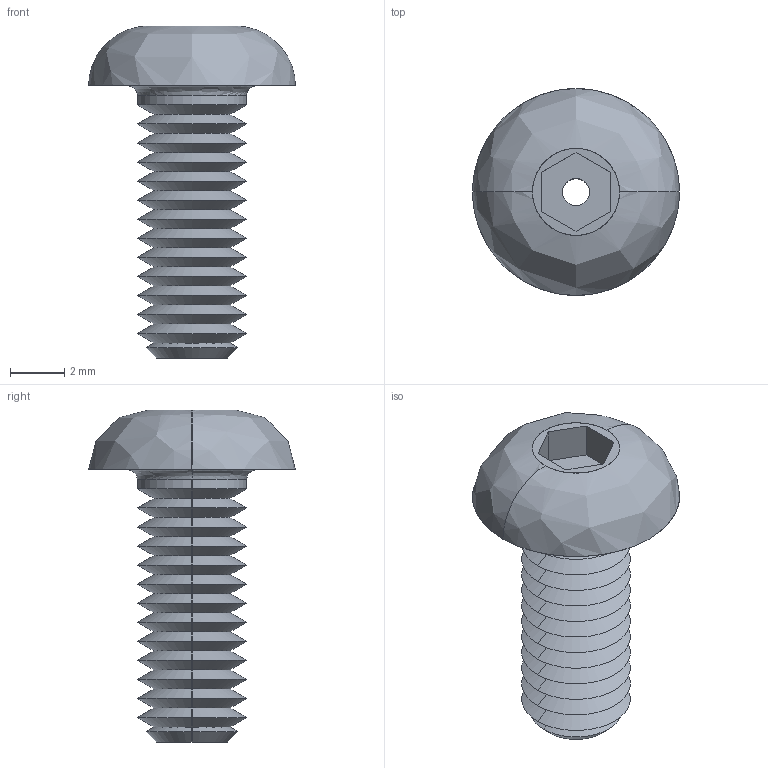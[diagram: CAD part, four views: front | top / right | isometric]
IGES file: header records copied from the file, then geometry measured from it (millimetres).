
Start section: SolidWorks IGES file using analytic representation for surfaces
Global section: file name: C:\Users\liam_\OneDrive\Documents\WORK\Work for WixRoyd\Job Files\J-00019 - Matt Davis CAD Checking\04. CAD Drawings\automotion20190605\P0094_v2\P0094_v2_20190712_IGES\P0094.040-010-A2.igs; native system: SolidWorks 2017; preprocessor: SolidWorks 2017; author: liam_; date: 190712.175227; units: millimetre
Bounding box: 7.6 x 7.6 x 12.2 mm (x, y, z)
Surface area: 357.1 mm2 (no closed solid volume)
Topology: 0 solids, 0 shells, 72 faces, 444 edges, 444 vertices
Faces by surface type: revolution 58, bspline 14
